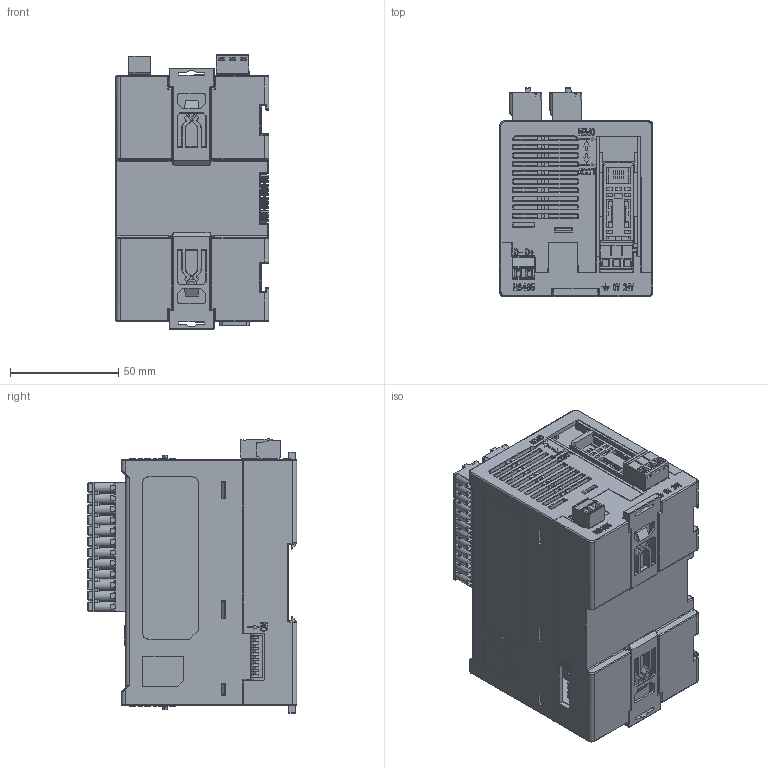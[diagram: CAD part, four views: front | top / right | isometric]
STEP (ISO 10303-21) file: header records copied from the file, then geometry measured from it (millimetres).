
FILE_DESCRIPTION((''),'2;1');
FILE_NAME('DTMR08_ASM','2021-03-02T',('BRAD.PENG'),(''),'PRO/ENGINEER BY PARAMETRIC TECHNOLOGY CORPORATION, 2012360','PRO/ENGINEER BY PARAMETRIC TECHNOLOGY CORPORATION, 2012360','');
FILE_SCHEMA(('CONFIG_CONTROL_DESIGN','GEOMETRIC_VALIDATION_PROPERTIES_MIM'));
Products named in the file (4): DTM_MAIN_COVER_USB_MINI_36; DINKLE_EC508V-02P_5; DTM_MAIN_ASSY_ASM_332_ASM; DTMR08_ASM
Assembly tree (3 placements, depth 3):
  DTMR08_ASM
    DTM_MAIN_ASSY_ASM_332_ASM
      DTM_MAIN_COVER_USB_MINI_36
      DINKLE_EC508V-02P_5
Bounding box: 71 x 96.85 x 126.95 mm (x, y, z)
Volume: 586093.3 mm3; surface area: 123443.8 mm2
Topology: 2 solids, 6 shells, 6236 faces, 17665 edges, 11471 vertices
Faces by surface type: plane 4576, cylinder 1145, cone 223, bspline 155, torus 85, sphere 36, extrusion 16
Entity records: 256225 total; most frequent: CARTESIAN_POINT 50119, ORIENTED_EDGE 35256, DIRECTION 30931, EDGE_CURVE 17628, VECTOR 13535, LINE 13519, VERTEX_POINT 11471, AXIS2_PLACEMENT_3D 8698
